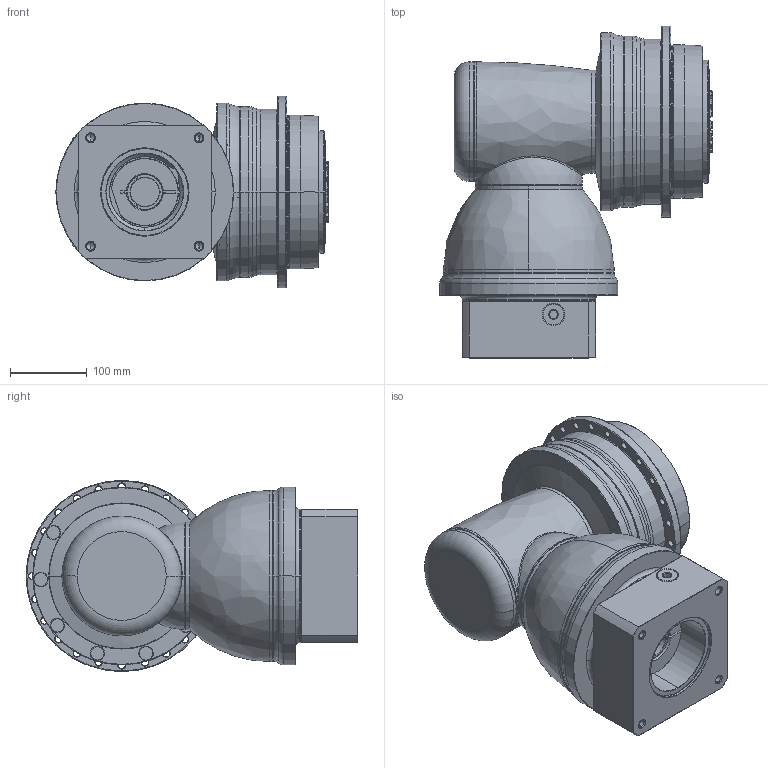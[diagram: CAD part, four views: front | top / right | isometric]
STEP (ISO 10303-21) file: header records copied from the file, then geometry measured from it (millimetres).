
FILE_DESCRIPTION((''),'2;1');
FILE_NAME('APCK200_2ST_SBG_38-P0409910201_ASM','2018-05-18T',('d01226'),(''),'PRO/ENGINEER BY PARAMETRIC TECHNOLOGY CORPORATION, 2008410','PRO/ENGINEER BY PARAMETRIC TECHNOLOGY CORPORATION, 2008410','');
FILE_SCHEMA(('CONFIG_CONTROL_DESIGN'));
Length unit declared in the file: millimetre
Products named in the file (13): P0278601003; P0359660103; P1211600001; P1802610001; P1018600002; P1365600001; P1007601001; P1318610201; P0409910201; P0503900012; P0912652001; 21711422019; APCK200_2ST_SBG_38-P0409910201_ASM
Assembly tree (12 placements, depth 2):
  APCK200_2ST_SBG_38-P0409910201_ASM
    P0278601003
    P0359660103
    P1211600001
    P1802610001
    P1018600002
    P1365600001
    P1007601001
    P1318610201
    P0409910201
    P0503900012
    P0912652001
    21711422019
Bounding box: 355.1 x 432.75 x 249.5 mm (x, y, z)
Volume: 15984058 mm3; surface area: 1084876.3 mm2
Topology: 13 solids, 23 shells, 793 faces, 1858 edges, 1136 vertices
Faces by surface type: cylinder 266, cone 234, plane 152, torus 113, bspline 26, sphere 2
Entity records: 29416 total; most frequent: CARTESIAN_POINT 10585, DIRECTION 4271, ORIENTED_EDGE 3646, AXIS2_PLACEMENT_3D 1867, EDGE_CURVE 1844, VERTEX_POINT 1136, CIRCLE 1065, EDGE_LOOP 916
